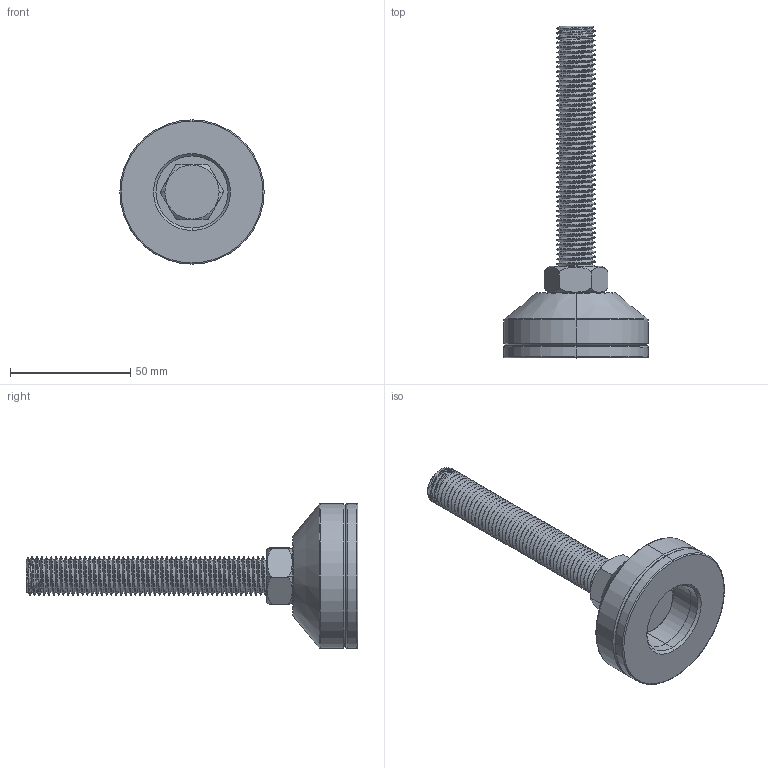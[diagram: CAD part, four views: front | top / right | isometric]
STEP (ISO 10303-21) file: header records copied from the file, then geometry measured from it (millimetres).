
FILE_DESCRIPTION (( 'STEP AP203' ), '1' );
FILE_NAME ('CE-UAF-TPU-D60-M16-100褐戚.STEP', '2016-11-05T03:54:07', ( '' ), ( '' ), 'SwSTEP 2.0', 'SolidWorks 2013', '' );
FILE_SCHEMA (( 'CONFIG_CONTROL_DESIGN' ));
Length unit declared in the file: millimetre
Products named in the file (1): CE-UAF-TPU-D60-M16-100褐戚
Bounding box: 60 x 138 x 60 mm (x, y, z)
Surface area: 26239.7 mm2 (no closed solid volume)
Topology: 0 solids, 5 shells, 163 faces, 474 edges, 317 vertices
Faces by surface type: cylinder 124, plane 13, bspline 12, torus 8, cone 6
Entity records: 11209 total; most frequent: CARTESIAN_POINT 7618, ORIENTED_EDGE 918, DIRECTION 559, EDGE_CURVE 474, VERTEX_POINT 317, AXIS2_PLACEMENT_3D 210, EDGE_LOOP 168, ADVANCED_FACE 163
